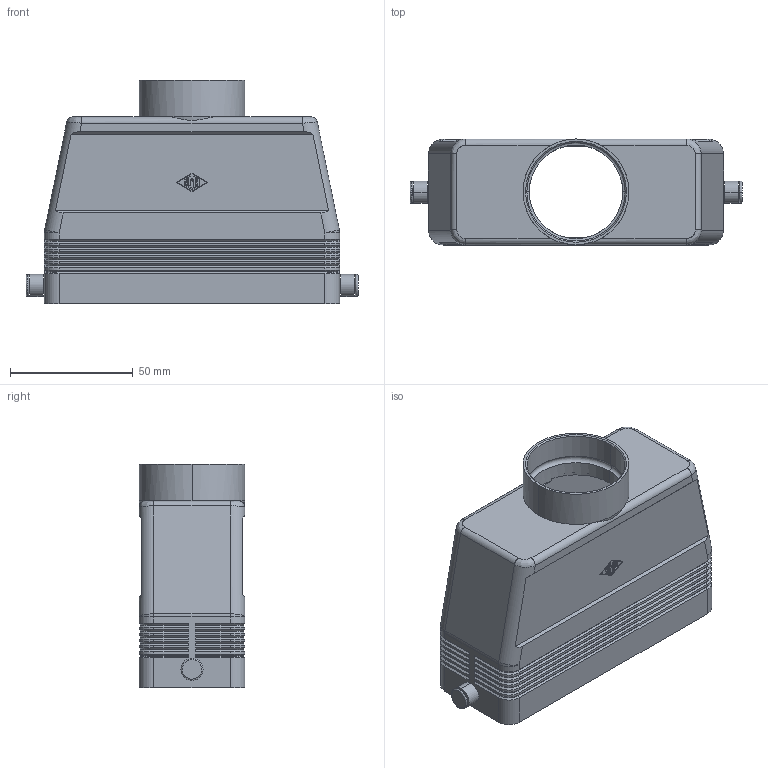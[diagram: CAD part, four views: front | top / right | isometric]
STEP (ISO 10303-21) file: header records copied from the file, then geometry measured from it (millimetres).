
FILE_DESCRIPTION (( 'STEP AP203' ), '1' );
FILE_NAME ('MAV-24L40.STEP', '2016-05-20T15:32:41', ( 'Mencom User' ), ( 'Hewlett-Packard Company' ), 'SwSTEP 2.0', 'SolidWorks 2015', '' );
FILE_SCHEMA (( 'CONFIG_CONTROL_DESIGN' ));
Length unit declared in the file: millimetre
Products named in the file (1): MAV-24L40
Bounding box: 135 x 43 x 91 mm (x, y, z)
Volume: 84576.1 mm3; surface area: 57356 mm2
Topology: 1 solids, 1 shells, 438 faces, 1030 edges, 608 vertices
Faces by surface type: plane 235, cylinder 127, cone 60, bspline 12, torus 4
Entity records: 12993 total; most frequent: CARTESIAN_POINT 2943, DIRECTION 2092, ORIENTED_EDGE 2044, EDGE_CURVE 1022, LINE 714, VECTOR 714, AXIS2_PLACEMENT_3D 689, VERTEX_POINT 608
